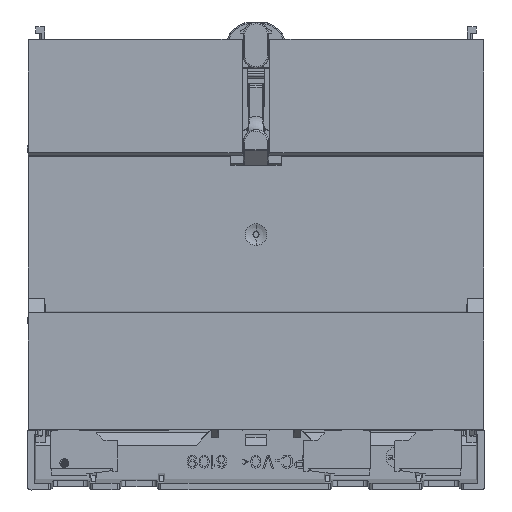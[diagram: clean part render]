
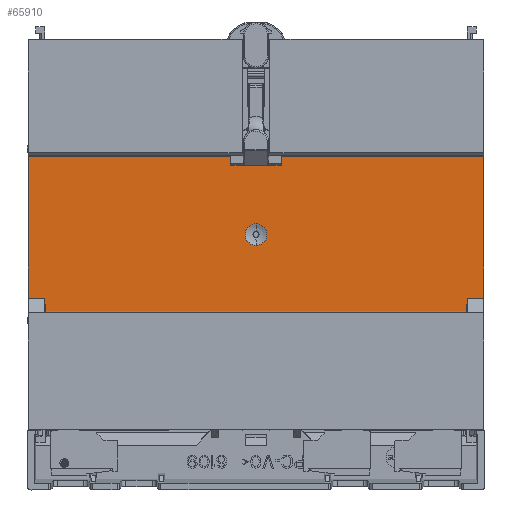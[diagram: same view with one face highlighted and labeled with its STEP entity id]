
A CAD part, front view. The second image highlights one B-rep face of the part: STEP entity #65910.
In plain terms, the highlighted planar face has unit normal (0, -1, 0).
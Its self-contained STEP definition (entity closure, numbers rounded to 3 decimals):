
#17090=DIRECTION('',(1.,0.,0.));
#17091=VECTOR('',#17090,46.645);
#17092=CARTESIAN_POINT('',(-52.5,-33.2,18.051));
#17093=LINE('',#17092,#17091);
#17196=CARTESIAN_POINT('',(0.,-33.2,0.));
#17197=DIRECTION('',(0.,1.,0.));
#17198=DIRECTION('',(0.,0.,1.));
#17199=AXIS2_PLACEMENT_3D('',#17196,#17197,#17198);
#17201=CARTESIAN_POINT('',(0.,-33.2,0.));
#17202=DIRECTION('',(0.,1.,0.));
#17203=DIRECTION('',(0.,0.,-1.));
#17204=AXIS2_PLACEMENT_3D('',#17201,#17202,#17203);
#17240=DIRECTION('',(0.,0.,-1.));
#17241=VECTOR('',#17240,0.652);
#17242=CARTESIAN_POINT('',(5.8,-33.2,18.05));
#17243=LINE('',#17242,#17241);
#17244=DIRECTION('',(-1.,0.,0.));
#17245=VECTOR('',#17244,46.645);
#17246=CARTESIAN_POINT('',(52.5,-33.2,18.051));
#17247=LINE('',#17246,#17245);
#17248=DIRECTION('',(0.,0.,1.));
#17249=VECTOR('',#17248,35.701);
#17250=CARTESIAN_POINT('',(52.5,-33.2,-17.65));
#17251=LINE('',#17250,#17249);
#17252=DIRECTION('',(0.,0.,-1.));
#17253=VECTOR('',#17252,35.701);
#17254=CARTESIAN_POINT('',(-52.5,-33.2,18.051));
#17255=LINE('',#17254,#17253);
#17256=DIRECTION('',(0.,0.,1.));
#17257=VECTOR('',#17256,0.652);
#17258=CARTESIAN_POINT('',(-5.8,-33.2,17.398));
#17259=LINE('',#17258,#17257);
#17260=DIRECTION('',(1.,0.,0.));
#17261=VECTOR('',#17260,11.6);
#17262=CARTESIAN_POINT('',(-5.8,-33.2,17.398));
#17263=LINE('',#17262,#17261);
#19078=DIRECTION('',(1.,0.,0.004));
#19079=VECTOR('',#19078,0.055);
#19080=CARTESIAN_POINT('',(5.8,-33.2,18.05));
#19081=LINE('',#19080,#19079);
#19166=DIRECTION('',(-1.,0.,0.));
#19167=VECTOR('',#19166,105.);
#19168=CARTESIAN_POINT('',(52.5,-33.2,-17.65));
#19169=LINE('',#19168,#19167);
#19242=DIRECTION('',(1.,0.,-0.004));
#19243=VECTOR('',#19242,0.055);
#19244=CARTESIAN_POINT('',(-5.855,-33.2,
18.05));
#19245=LINE('',#19244,#19243);
#33010=CARTESIAN_POINT('',(-52.5,-33.2,18.051));
#33011=VERTEX_POINT('',#33010);
#33012=CARTESIAN_POINT('',(-52.5,-33.2,-17.65));
#33013=VERTEX_POINT('',#33012);
#33182=CARTESIAN_POINT('',(52.5,-33.2,-17.65));
#33183=VERTEX_POINT('',#33182);
#33184=CARTESIAN_POINT('',(52.5,-33.2,18.051));
#33185=VERTEX_POINT('',#33184);
#33202=CARTESIAN_POINT('',(5.855,-33.2,
18.05));
#33203=VERTEX_POINT('',#33202);
#33212=CARTESIAN_POINT('',(-5.855,-33.2,
18.05));
#33213=VERTEX_POINT('',#33212);
#33214=CARTESIAN_POINT('',(0.,-33.2,-2.5));
#33215=CARTESIAN_POINT('',(0.,-33.2,2.5));
#33216=VERTEX_POINT('',#33214);
#33217=VERTEX_POINT('',#33215);
#40446=CARTESIAN_POINT('',(5.8,-33.2,18.05));
#40447=CARTESIAN_POINT('',(5.8,-33.2,17.398));
#40448=VERTEX_POINT('',#40446);
#40449=VERTEX_POINT('',#40447);
#40471=CARTESIAN_POINT('',(-5.8,-33.2,17.398));
#40472=VERTEX_POINT('',#40471);
#40473=CARTESIAN_POINT('',(-5.8,-33.2,18.05));
#40474=VERTEX_POINT('',#40473);
#65880=CARTESIAN_POINT('',(-63.,-33.2,-17.65));
#65881=DIRECTION('',(0.,1.,0.));
#65882=DIRECTION('',(0.,0.,1.));
#65883=AXIS2_PLACEMENT_3D('',#65880,#65881,#65882);
#65884=PLANE('',#65883);
#65886=ORIENTED_EDGE('',*,*,#65885,.F.);
#65888=ORIENTED_EDGE('',*,*,#65887,.T.);
#65890=ORIENTED_EDGE('',*,*,#65889,.F.);
#65891=ORIENTED_EDGE('',*,*,#65378,.F.);
#65893=ORIENTED_EDGE('',*,*,#65892,.T.);
#65894=ORIENTED_EDGE('',*,*,#47319,.F.);
#65895=ORIENTED_EDGE('',*,*,#65624,.T.);
#65897=ORIENTED_EDGE('',*,*,#65896,.T.);
#65899=ORIENTED_EDGE('',*,*,#65898,.F.);
#65901=ORIENTED_EDGE('',*,*,#65900,.T.);
#65902=EDGE_LOOP('',(#65886,#65888,#65890,#65891,#65893,#65894,#65895,#65897,
#65899,#65901));
#65903=FACE_OUTER_BOUND('',#65902,.F.);
#65905=ORIENTED_EDGE('',*,*,#65904,.F.);
#65907=ORIENTED_EDGE('',*,*,#65906,.F.);
#65908=EDGE_LOOP('',(#65905,#65907));
#65909=FACE_BOUND('',#65908,.F.);
#17200=CIRCLE('',#17199,2.5);
#17205=CIRCLE('',#17204,2.5);
#47319=EDGE_CURVE('',#33011,#33013,#17255,.T.);
#65378=EDGE_CURVE('',#33183,#33185,#17251,.T.);
#65624=EDGE_CURVE('',#33011,#33213,#17093,.T.);
#65885=EDGE_CURVE('',#40448,#40449,#17243,.T.);
#65887=EDGE_CURVE('',#40448,#33203,#19081,.T.);
#65889=EDGE_CURVE('',#33185,#33203,#17247,.T.);
#65892=EDGE_CURVE('',#33183,#33013,#19169,.T.);
#65896=EDGE_CURVE('',#33213,#40474,#19245,.T.);
#65898=EDGE_CURVE('',#40472,#40474,#17259,.T.);
#65900=EDGE_CURVE('',#40472,#40449,#17263,.T.);
#65904=EDGE_CURVE('',#33217,#33216,#17200,.T.);
#65906=EDGE_CURVE('',#33216,#33217,#17205,.T.);
#65910=ADVANCED_FACE('',(#65903,#65909),#65884,.F.);
